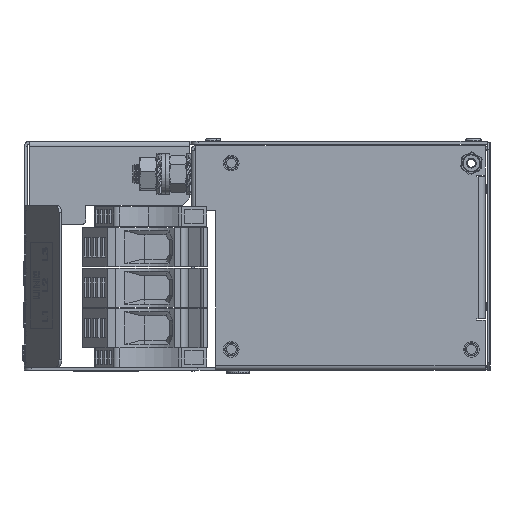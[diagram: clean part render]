
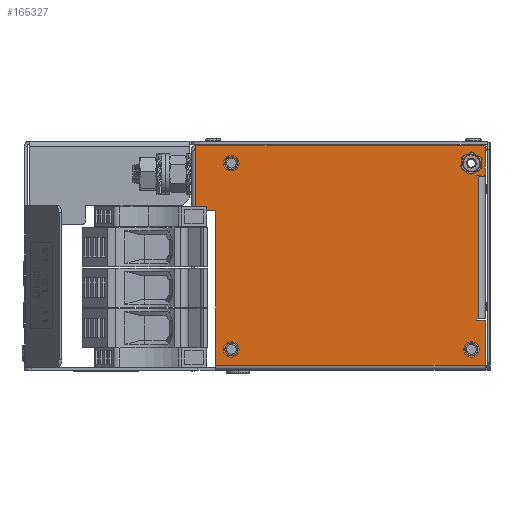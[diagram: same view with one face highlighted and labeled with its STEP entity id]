
A CAD part, left-side view. The second image highlights one B-rep face of the part: STEP entity #165327.
In plain terms, the highlighted planar face has unit normal (-1, 0, 0).
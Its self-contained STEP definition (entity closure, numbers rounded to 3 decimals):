
#160854=DIRECTION('',(0.,-1.,0.));
#160855=VECTOR('',#160854,3.4);
#160856=CARTESIAN_POINT('',(17.5,5.4,20.4));
#160857=LINE('',#160856,#160855);
#160858=CARTESIAN_POINT('',(17.5,7.6,8.5));
#160859=DIRECTION('',(-1.,0.,0.));
#160860=DIRECTION('',(0.,0.,1.));
#160861=AXIS2_PLACEMENT_3D('',#160858,#160859,#160860);
#160863=CARTESIAN_POINT('',(17.5,7.6,8.5));
#160864=DIRECTION('',(-1.,0.,0.));
#160865=DIRECTION('',(0.,0.,-1.));
#160866=AXIS2_PLACEMENT_3D('',#160863,#160864,#160865);
#160868=CARTESIAN_POINT('',(17.5,105.6,8.5));
#160869=DIRECTION('',(-1.,0.,0.));
#160870=DIRECTION('',(0.,0.,1.));
#160871=AXIS2_PLACEMENT_3D('',#160868,#160869,#160870);
#160873=CARTESIAN_POINT('',(17.5,105.6,8.5));
#160874=DIRECTION('',(-1.,0.,0.));
#160875=DIRECTION('',(0.,0.,-1.));
#160876=AXIS2_PLACEMENT_3D('',#160873,#160874,#160875);
#160878=CARTESIAN_POINT('',(17.5,105.6,84.5));
#160879=DIRECTION('',(-1.,0.,0.));
#160880=DIRECTION('',(0.,0.,1.));
#160881=AXIS2_PLACEMENT_3D('',#160878,#160879,#160880);
#160883=CARTESIAN_POINT('',(17.5,105.6,84.5));
#160884=DIRECTION('',(-1.,0.,0.));
#160885=DIRECTION('',(0.,0.,-1.));
#160886=AXIS2_PLACEMENT_3D('',#160883,#160884,#160885);
#160888=CARTESIAN_POINT('',(17.5,7.6,84.5));
#160889=DIRECTION('',(-1.,0.,0.));
#160890=DIRECTION('',(0.,0.,1.));
#160891=AXIS2_PLACEMENT_3D('',#160888,#160889,#160890);
#160893=CARTESIAN_POINT('',(17.5,7.6,84.5));
#160894=DIRECTION('',(-1.,0.,0.));
#160895=DIRECTION('',(0.,0.,-1.));
#160896=AXIS2_PLACEMENT_3D('',#160893,#160894,#160895);
#160906=DIRECTION('',(0.,0.,1.));
#160907=VECTOR('',#160906,18.4);
#160908=CARTESIAN_POINT('',(17.5,2.,2.));
#160909=LINE('',#160908,#160907);
#160914=DIRECTION('',(0.,-1.,0.));
#160915=VECTOR('',#160914,110.);
#160916=CARTESIAN_POINT('',(17.5,112.,2.));
#160917=LINE('',#160916,#160915);
#160936=DIRECTION('',(0.,0.,-1.));
#160937=VECTOR('',#160936,63.2);
#160938=CARTESIAN_POINT('',(17.5,112.,65.2));
#160939=LINE('',#160938,#160937);
#160973=DIRECTION('',(0.,-1.,0.));
#160974=VECTOR('',#160973,8.);
#160975=CARTESIAN_POINT('',(17.5,120.,65.2));
#160976=LINE('',#160975,#160974);
#160990=DIRECTION('',(0.,0.,-1.));
#160991=VECTOR('',#160990,24.5);
#160992=CARTESIAN_POINT('',(17.5,120.,89.7));
#160993=LINE('',#160992,#160991);
#161219=DIRECTION('',(0.,0.,-1.));
#161220=VECTOR('',#161219,2.);
#161221=CARTESIAN_POINT('',(17.5,120.,91.7));
#161222=LINE('',#161221,#161220);
#161227=DIRECTION('',(0.,1.,0.));
#161228=VECTOR('',#161227,118.);
#161229=CARTESIAN_POINT('',(17.5,2.,91.7));
#161230=LINE('',#161229,#161228);
#161235=DIRECTION('',(0.,0.,1.));
#161236=VECTOR('',#161235,12.1);
#161237=CARTESIAN_POINT('',(17.5,2.,79.6));
#161238=LINE('',#161237,#161236);
#161247=DIRECTION('',(0.,-1.,0.));
#161248=VECTOR('',#161247,3.4);
#161249=CARTESIAN_POINT('',(17.5,5.4,79.6));
#161250=LINE('',#161249,#161248);
#161259=DIRECTION('',(0.,0.,1.));
#161260=VECTOR('',#161259,0.6);
#161261=CARTESIAN_POINT('',(17.5,5.4,79.));
#161262=LINE('',#161261,#161260);
#161271=DIRECTION('',(0.,1.,0.));
#161272=VECTOR('',#161271,0.6);
#161273=CARTESIAN_POINT('',(17.5,4.8,79.));
#161274=LINE('',#161273,#161272);
#161343=DIRECTION('',(0.,-1.,0.));
#161344=VECTOR('',#161343,0.6);
#161345=CARTESIAN_POINT('',(17.5,5.4,21.));
#161346=LINE('',#161345,#161344);
#161355=DIRECTION('',(0.,0.,1.));
#161356=VECTOR('',#161355,0.6);
#161357=CARTESIAN_POINT('',(17.5,5.4,20.4));
#161358=LINE('',#161357,#161356);
#161371=DIRECTION('',(0.,0.,1.));
#161372=VECTOR('',#161371,58.);
#161373=CARTESIAN_POINT('',(17.5,4.8,21.));
#161374=LINE('',#161373,#161372);
#162215=CARTESIAN_POINT('',(17.5,2.,2.));
#162216=VERTEX_POINT('',#162215);
#162255=CARTESIAN_POINT('',(17.5,5.4,20.4));
#162256=CARTESIAN_POINT('',(17.5,2.,20.4));
#162257=VERTEX_POINT('',#162255);
#162258=VERTEX_POINT('',#162256);
#162259=CARTESIAN_POINT('',(17.5,112.,65.2));
#162260=CARTESIAN_POINT('',(17.5,112.,2.));
#162261=VERTEX_POINT('',#162259);
#162262=VERTEX_POINT('',#162260);
#162263=CARTESIAN_POINT('',(17.5,120.,65.2));
#162264=VERTEX_POINT('',#162263);
#162265=CARTESIAN_POINT('',(17.5,2.,91.7));
#162266=CARTESIAN_POINT('',(17.5,120.,91.7));
#162267=VERTEX_POINT('',#162265);
#162268=VERTEX_POINT('',#162266);
#162269=CARTESIAN_POINT('',(17.5,2.,79.6));
#162270=VERTEX_POINT('',#162269);
#162271=CARTESIAN_POINT('',(17.5,7.6,10.5));
#162272=CARTESIAN_POINT('',(17.5,7.6,6.5));
#162273=VERTEX_POINT('',#162271);
#162274=VERTEX_POINT('',#162272);
#162275=CARTESIAN_POINT('',(17.5,105.6,10.5));
#162276=CARTESIAN_POINT('',(17.5,105.6,6.5));
#162277=VERTEX_POINT('',#162275);
#162278=VERTEX_POINT('',#162276);
#162279=CARTESIAN_POINT('',(17.5,105.6,86.5));
#162280=CARTESIAN_POINT('',(17.5,105.6,82.5));
#162281=VERTEX_POINT('',#162279);
#162282=VERTEX_POINT('',#162280);
#162283=CARTESIAN_POINT('',(17.5,7.6,86.5));
#162284=CARTESIAN_POINT('',(17.5,7.6,82.5));
#162285=VERTEX_POINT('',#162283);
#162286=VERTEX_POINT('',#162284);
#162299=CARTESIAN_POINT('',(17.5,120.,89.7));
#162300=VERTEX_POINT('',#162299);
#162363=CARTESIAN_POINT('',(17.5,5.4,79.6));
#162364=VERTEX_POINT('',#162363);
#162365=CARTESIAN_POINT('',(17.5,5.4,79.));
#162366=VERTEX_POINT('',#162365);
#162367=CARTESIAN_POINT('',(17.5,4.8,79.));
#162368=VERTEX_POINT('',#162367);
#162385=CARTESIAN_POINT('',(17.5,4.8,21.));
#162386=VERTEX_POINT('',#162385);
#162389=CARTESIAN_POINT('',(17.5,5.4,21.));
#162390=VERTEX_POINT('',#162389);
#165267=CARTESIAN_POINT('',(17.5,61.,46.85));
#165268=DIRECTION('',(1.,0.,0.));
#165269=DIRECTION('',(0.,0.,1.));
#165270=AXIS2_PLACEMENT_3D('',#165267,#165268,#165269);
#165271=PLANE('',#165270);
#165273=ORIENTED_EDGE('',*,*,#165272,.F.);
#165275=ORIENTED_EDGE('',*,*,#165274,.F.);
#165277=ORIENTED_EDGE('',*,*,#165276,.F.);
#165279=ORIENTED_EDGE('',*,*,#165278,.F.);
#165281=ORIENTED_EDGE('',*,*,#165280,.F.);
#165283=ORIENTED_EDGE('',*,*,#165282,.F.);
#165285=ORIENTED_EDGE('',*,*,#165284,.F.);
#165287=ORIENTED_EDGE('',*,*,#165286,.F.);
#165289=ORIENTED_EDGE('',*,*,#165288,.F.);
#165291=ORIENTED_EDGE('',*,*,#165290,.F.);
#165293=ORIENTED_EDGE('',*,*,#165292,.F.);
#165295=ORIENTED_EDGE('',*,*,#165294,.F.);
#165297=ORIENTED_EDGE('',*,*,#165296,.F.);
#165299=ORIENTED_EDGE('',*,*,#165298,.F.);
#165300=ORIENTED_EDGE('',*,*,#165257,.T.);
#165301=EDGE_LOOP('',(#165273,#165275,#165277,#165279,#165281,#165283,#165285,
#165287,#165289,#165291,#165293,#165295,#165297,#165299,#165300));
#165302=FACE_OUTER_BOUND('',#165301,.F.);
#165304=ORIENTED_EDGE('',*,*,#165303,.T.);
#165306=ORIENTED_EDGE('',*,*,#165305,.T.);
#165307=EDGE_LOOP('',(#165304,#165306));
#165308=FACE_BOUND('',#165307,.F.);
#165310=ORIENTED_EDGE('',*,*,#165309,.T.);
#165312=ORIENTED_EDGE('',*,*,#165311,.T.);
#165313=EDGE_LOOP('',(#165310,#165312));
#165314=FACE_BOUND('',#165313,.F.);
#165316=ORIENTED_EDGE('',*,*,#165315,.T.);
#165318=ORIENTED_EDGE('',*,*,#165317,.T.);
#165319=EDGE_LOOP('',(#165316,#165318));
#165320=FACE_BOUND('',#165319,.F.);
#165322=ORIENTED_EDGE('',*,*,#165321,.T.);
#165324=ORIENTED_EDGE('',*,*,#165323,.T.);
#165325=EDGE_LOOP('',(#165322,#165324));
#165326=FACE_BOUND('',#165325,.F.);
#165327=ADVANCED_FACE('',(#165302,#165308,#165314,#165320,#165326),#165271,.F.);
#160862=CIRCLE('',#160861,2.);
#160867=CIRCLE('',#160866,2.);
#160872=CIRCLE('',#160871,2.);
#160877=CIRCLE('',#160876,2.);
#160882=CIRCLE('',#160881,2.);
#160887=CIRCLE('',#160886,2.);
#160892=CIRCLE('',#160891,2.);
#160897=CIRCLE('',#160896,2.);
#165257=EDGE_CURVE('',#162257,#162258,#160857,.T.);
#165272=EDGE_CURVE('',#162216,#162258,#160909,.T.);
#165274=EDGE_CURVE('',#162262,#162216,#160917,.T.);
#165276=EDGE_CURVE('',#162261,#162262,#160939,.T.);
#165278=EDGE_CURVE('',#162264,#162261,#160976,.T.);
#165280=EDGE_CURVE('',#162300,#162264,#160993,.T.);
#165282=EDGE_CURVE('',#162268,#162300,#161222,.T.);
#165284=EDGE_CURVE('',#162267,#162268,#161230,.T.);
#165286=EDGE_CURVE('',#162270,#162267,#161238,.T.);
#165288=EDGE_CURVE('',#162364,#162270,#161250,.T.);
#165290=EDGE_CURVE('',#162366,#162364,#161262,.T.);
#165292=EDGE_CURVE('',#162368,#162366,#161274,.T.);
#165294=EDGE_CURVE('',#162386,#162368,#161374,.T.);
#165296=EDGE_CURVE('',#162390,#162386,#161346,.T.);
#165298=EDGE_CURVE('',#162257,#162390,#161358,.T.);
#165303=EDGE_CURVE('',#162273,#162274,#160862,.T.);
#165305=EDGE_CURVE('',#162274,#162273,#160867,.T.);
#165309=EDGE_CURVE('',#162277,#162278,#160872,.T.);
#165311=EDGE_CURVE('',#162278,#162277,#160877,.T.);
#165315=EDGE_CURVE('',#162281,#162282,#160882,.T.);
#165317=EDGE_CURVE('',#162282,#162281,#160887,.T.);
#165321=EDGE_CURVE('',#162285,#162286,#160892,.T.);
#165323=EDGE_CURVE('',#162286,#162285,#160897,.T.);
